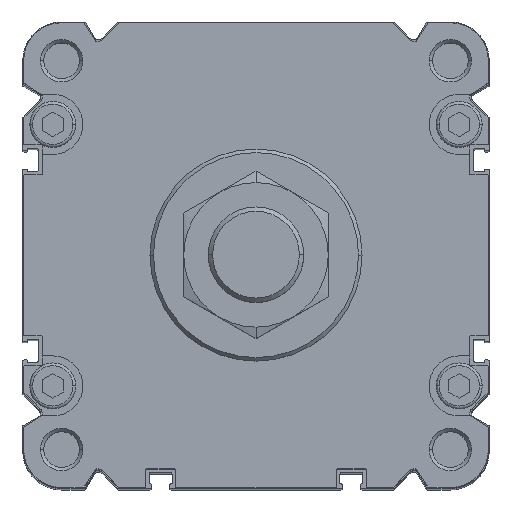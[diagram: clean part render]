
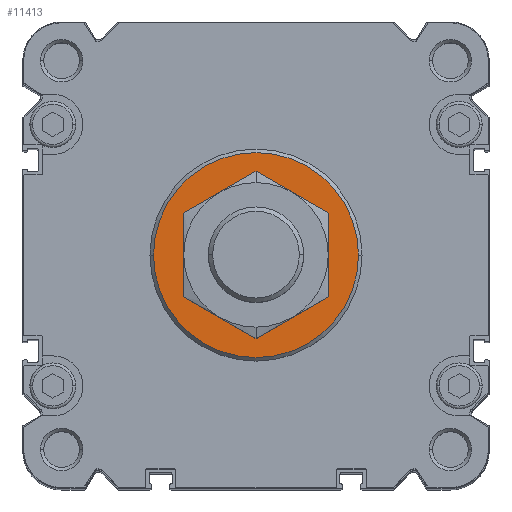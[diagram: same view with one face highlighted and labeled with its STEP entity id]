
A CAD part, top view. The second image highlights one B-rep face of the part: STEP entity #11413.
In plain terms, the highlighted planar face has unit normal (0, 0, 1).
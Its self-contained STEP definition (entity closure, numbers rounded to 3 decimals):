
#191 = CARTESIAN_POINT ( 'NONE',  ( 0., 0., 4. ) ) ;
#228 = EDGE_CURVE ( 'NONE', #19249, #18183, #18568, .T. ) ;
#616 = CARTESIAN_POINT ( 'NONE',  ( 0., 0., 4. ) ) ;
#1267 = DIRECTION ( 'NONE',  ( 0., 0., 1. ) ) ;
#2241 = DIRECTION ( 'NONE',  ( 0., 0., -1. ) ) ;
#2255 = CARTESIAN_POINT ( 'NONE',  ( -16., 0., 4. ) ) ;
#2578 = DIRECTION ( 'NONE',  ( 0., 0., -1. ) ) ;
#3326 = CARTESIAN_POINT ( 'NONE',  ( -29., 0., 4. ) ) ;
#4756 = CARTESIAN_POINT ( 'NONE',  ( 0., -29., 4. ) ) ;
#5753 = AXIS2_PLACEMENT_3D ( 'NONE', #16473, #20600, #18629 ) ;
#5971 = AXIS2_PLACEMENT_3D ( 'NONE', #13333, #9506, #12993 ) ;
#6639 = CARTESIAN_POINT ( 'NONE',  ( 29., 0., 4. ) ) ;
#7032 = ORIENTED_EDGE ( 'NONE', *, *, #16295, .F. ) ;
#7384 = EDGE_LOOP ( 'NONE', ( #19019, #19867 ) ) ;
#8212 = DIRECTION ( 'NONE',  ( -1., 0., 0. ) ) ;
#8333 = PLANE ( 'NONE',  #20977 ) ;
#8823 = CIRCLE ( 'NONE', #21786, 16. ) ;
#9292 = DIRECTION ( 'NONE',  ( 1., 0., 0. ) ) ;
#9506 = DIRECTION ( 'NONE',  ( 0., 0., -1. ) ) ;
#10092 = ORIENTED_EDGE ( 'NONE', *, *, #228, .F. ) ;
#10769 = EDGE_CURVE ( 'NONE', #18109, #15482, #15405, .T. ) ;
#11413 = ADVANCED_FACE ( 'NONE', ( #15308, #22385 ), #8333, .T. ) ;
#11677 = CIRCLE ( 'NONE', #5753, 29. ) ;
#12993 = DIRECTION ( 'NONE',  ( 1., 0., 0. ) ) ;
#13333 = CARTESIAN_POINT ( 'NONE',  ( 0., 0., 4. ) ) ;
#14657 = AXIS2_PLACEMENT_3D ( 'NONE', #616, #2241, #9292 ) ;
#14874 = DIRECTION ( 'NONE',  ( 1., 0., 0. ) ) ;
#15308 = FACE_OUTER_BOUND ( 'NONE', #19220, .T. ) ;
#15405 = CIRCLE ( 'NONE', #14657, 16. ) ;
#15482 = VERTEX_POINT ( 'NONE', #2255 ) ;
#16295 = EDGE_CURVE ( 'NONE', #18183, #19249, #11677, .T. ) ;
#16473 = CARTESIAN_POINT ( 'NONE',  ( 0., 0., 4. ) ) ;
#18109 = VERTEX_POINT ( 'NONE', #22827 ) ;
#18183 = VERTEX_POINT ( 'NONE', #3326 ) ;
#18568 = CIRCLE ( 'NONE', #5971, 29. ) ;
#18629 = DIRECTION ( 'NONE',  ( 1., 0., 0. ) ) ;
#19019 = ORIENTED_EDGE ( 'NONE', *, *, #10769, .T. ) ;
#19220 = EDGE_LOOP ( 'NONE', ( #10092, #7032 ) ) ;
#19249 = VERTEX_POINT ( 'NONE', #6639 ) ;
#19867 = ORIENTED_EDGE ( 'NONE', *, *, #21977, .T. ) ;
#20600 = DIRECTION ( 'NONE',  ( 0., 0., -1. ) ) ;
#20977 = AXIS2_PLACEMENT_3D ( 'NONE', #4756, #1267, #8212 ) ;
#21786 = AXIS2_PLACEMENT_3D ( 'NONE', #191, #2578, #14874 ) ;
#21977 = EDGE_CURVE ( 'NONE', #15482, #18109, #8823, .T. ) ;
#22385 = FACE_BOUND ( 'NONE', #7384, .T. ) ;
#22827 = CARTESIAN_POINT ( 'NONE',  ( 16., 0., 4. ) ) ;
